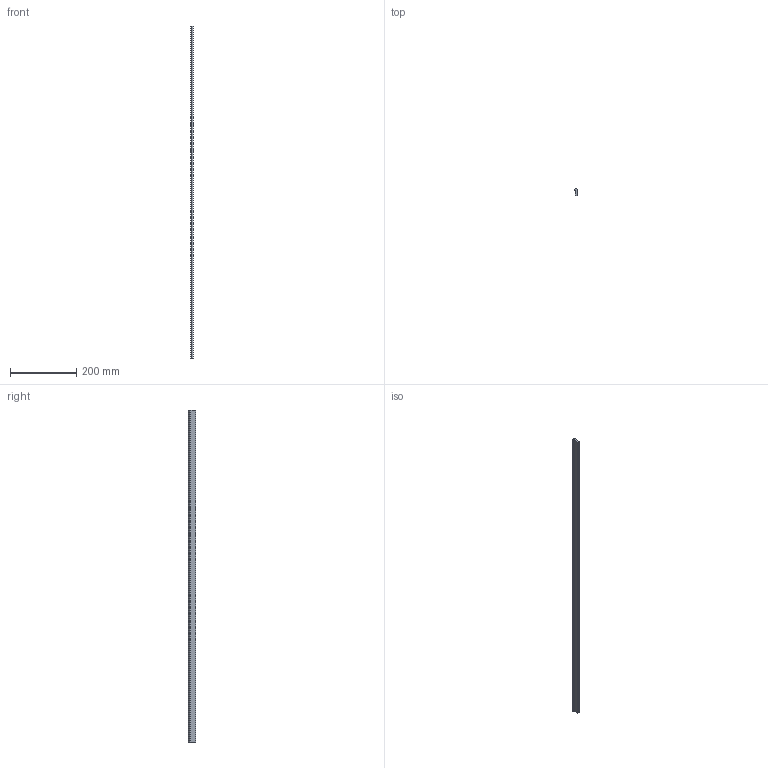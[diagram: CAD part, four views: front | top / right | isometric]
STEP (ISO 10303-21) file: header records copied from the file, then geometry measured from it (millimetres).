
FILE_DESCRIPTION(('STEP AP203'),'1');
FILE_NAME('T3SS-1000.stp','2020-09-30T01:57:18',(' '),(' '),'Spatial InterOp 3D',' ',' ');
FILE_SCHEMA(('CONFIG_CONTROL_DESIGN'));
Length unit declared in the file: millimetre
Products named in the file (1): T3SS-1000
Bounding box: 8.71 x 21.6 x 1000 mm (x, y, z)
Volume: 128872.6 mm3; surface area: 56159.6 mm2
Topology: 1 solids, 1 shells, 17 faces, 45 edges, 30 vertices
Faces by surface type: plane 9, cylinder 8
Entity records: 597 total; most frequent: DIRECTION 97, CARTESIAN_POINT 93, ORIENTED_EDGE 90, EDGE_CURVE 45, AXIS2_PLACEMENT_3D 34, VERTEX_POINT 30, LINE 29, VECTOR 29
